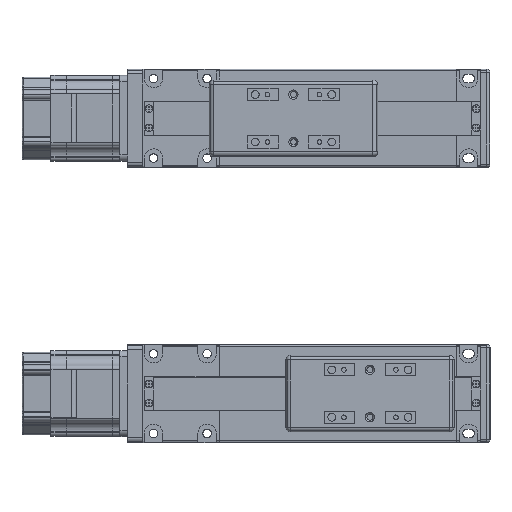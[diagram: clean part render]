
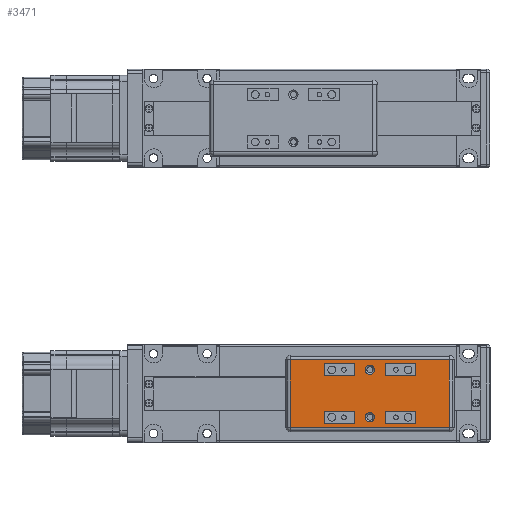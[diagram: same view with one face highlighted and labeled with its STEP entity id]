
A CAD part, top view. The second image highlights one B-rep face of the part: STEP entity #3471.
In plain terms, the highlighted planar face has unit normal (0, 0, 1).
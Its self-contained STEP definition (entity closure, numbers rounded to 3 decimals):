
#3471=ADVANCED_FACE('',(#8419,#8420,#8421,#8422,#8423,#8424,#8425),#8426,.T.);
#8419=FACE_BOUND('',#15546,.T.);
#8420=FACE_BOUND('',#15547,.T.);
#8421=FACE_OUTER_BOUND('',#15548,.T.);
#8422=FACE_BOUND('',#15549,.T.);
#8423=FACE_BOUND('',#15550,.T.);
#8424=FACE_BOUND('',#15551,.T.);
#8425=FACE_BOUND('',#15552,.T.);
#8426=PLANE('',#15553);
#15546=EDGE_LOOP('',(#25998,#25999));
#15547=EDGE_LOOP('',(#26000,#26001));
#15548=EDGE_LOOP('',(#26002,#26003,#26004,#26005));
#15549=EDGE_LOOP('',(#26006,#26007,#26008,#26009));
#15550=EDGE_LOOP('',(#26010,#26011,#26012,#26013));
#15551=EDGE_LOOP('',(#26014,#26015,#26016,#26017));
#15552=EDGE_LOOP('',(#26018,#26019,#26020,#26021));
#15553=AXIS2_PLACEMENT_3D('',#26022,#26023,#26024);
#25998=ORIENTED_EDGE('',*,*,#44726,.T.);
#25999=ORIENTED_EDGE('',*,*,#44727,.T.);
#26000=ORIENTED_EDGE('',*,*,#44728,.T.);
#26001=ORIENTED_EDGE('',*,*,#44729,.T.);
#26002=ORIENTED_EDGE('',*,*,#44730,.F.);
#26003=ORIENTED_EDGE('',*,*,#44731,.F.);
#26004=ORIENTED_EDGE('',*,*,#42636,.F.);
#26005=ORIENTED_EDGE('',*,*,#42837,.F.);
#26006=ORIENTED_EDGE('',*,*,#44732,.T.);
#26007=ORIENTED_EDGE('',*,*,#44733,.T.);
#26008=ORIENTED_EDGE('',*,*,#43658,.T.);
#26009=ORIENTED_EDGE('',*,*,#43335,.T.);
#26010=ORIENTED_EDGE('',*,*,#44734,.T.);
#26011=ORIENTED_EDGE('',*,*,#44735,.T.);
#26012=ORIENTED_EDGE('',*,*,#44736,.T.);
#26013=ORIENTED_EDGE('',*,*,#44737,.T.);
#26014=ORIENTED_EDGE('',*,*,#44738,.T.);
#26015=ORIENTED_EDGE('',*,*,#44739,.T.);
#26016=ORIENTED_EDGE('',*,*,#44740,.T.);
#26017=ORIENTED_EDGE('',*,*,#44741,.T.);
#26018=ORIENTED_EDGE('',*,*,#44742,.T.);
#26019=ORIENTED_EDGE('',*,*,#44743,.T.);
#26020=ORIENTED_EDGE('',*,*,#44744,.T.);
#26021=ORIENTED_EDGE('',*,*,#43908,.T.);
#26022=CARTESIAN_POINT('',(891.028,-71.2,14.35));
#26023=DIRECTION('',(0.0,0.0,1.0));
#26024=DIRECTION('',(0.,-1.0,0.0));
#42636=EDGE_CURVE('',#50765,#50767,#50768,.T.);
#42837=EDGE_CURVE('',#51131,#50765,#51133,.T.);
#43335=EDGE_CURVE('',#52020,#52024,#52026,.T.);
#43658=EDGE_CURVE('',#52592,#52020,#52593,.T.);
#43908=EDGE_CURVE('',#53025,#53023,#53026,.T.);
#44726=EDGE_CURVE('',#54404,#54405,#54406,.T.);
#44727=EDGE_CURVE('',#54405,#54404,#54407,.T.);
#44728=EDGE_CURVE('',#54408,#54409,#54410,.T.);
#44729=EDGE_CURVE('',#54409,#54408,#54411,.T.);
#44730=EDGE_CURVE('',#54412,#51131,#54413,.T.);
#44731=EDGE_CURVE('',#50767,#54412,#54414,.T.);
#44732=EDGE_CURVE('',#52024,#54415,#54416,.T.);
#44733=EDGE_CURVE('',#54415,#52592,#54417,.T.);
#44734=EDGE_CURVE('',#54418,#54419,#54420,.T.);
#44735=EDGE_CURVE('',#54419,#54421,#54422,.T.);
#44736=EDGE_CURVE('',#54421,#54423,#54424,.T.);
#44737=EDGE_CURVE('',#54423,#54418,#54425,.T.);
#44738=EDGE_CURVE('',#54426,#54427,#54428,.T.);
#44739=EDGE_CURVE('',#54427,#54429,#54430,.T.);
#44740=EDGE_CURVE('',#54429,#54431,#54432,.T.);
#44741=EDGE_CURVE('',#54431,#54426,#54433,.T.);
#44742=EDGE_CURVE('',#53023,#54434,#54435,.T.);
#44743=EDGE_CURVE('',#54434,#54436,#54437,.T.);
#44744=EDGE_CURVE('',#54436,#53025,#54438,.T.);
#50765=VERTEX_POINT('',#62715);
#50767=VERTEX_POINT('',#62717);
#50768=LINE('',#62718,#62719);
#51131=VERTEX_POINT('',#63216);
#51133=LINE('',#63218,#63219);
#52020=VERTEX_POINT('',#64456);
#52024=VERTEX_POINT('',#64462);
#52026=LINE('',#64465,#64466);
#52592=VERTEX_POINT('',#65269);
#52593=LINE('',#65270,#65271);
#53023=VERTEX_POINT('',#65869);
#53025=VERTEX_POINT('',#65872);
#53026=LINE('',#65873,#65874);
#54404=VERTEX_POINT('',#67793);
#54405=VERTEX_POINT('',#67794);
#54406=CIRCLE('',#67795,3.);
#54407=CIRCLE('',#67796,3.);
#54408=VERTEX_POINT('',#67797);
#54409=VERTEX_POINT('',#67798);
#54410=CIRCLE('',#67799,3.);
#54411=CIRCLE('',#67800,3.);
#54412=VERTEX_POINT('',#67801);
#54413=LINE('',#67802,#67803);
#54414=LINE('',#67804,#67805);
#54415=VERTEX_POINT('',#67806);
#54416=LINE('',#67807,#67808);
#54417=LINE('',#67809,#67810);
#54418=VERTEX_POINT('',#67811);
#54419=VERTEX_POINT('',#67812);
#54420=LINE('',#67813,#67814);
#54421=VERTEX_POINT('',#67815);
#54422=LINE('',#67816,#67817);
#54423=VERTEX_POINT('',#67818);
#54424=LINE('',#67819,#67820);
#54425=LINE('',#67821,#67822);
#54426=VERTEX_POINT('',#67823);
#54427=VERTEX_POINT('',#67824);
#54428=LINE('',#67825,#67826);
#54429=VERTEX_POINT('',#67827);
#54430=LINE('',#67828,#67829);
#54431=VERTEX_POINT('',#67830);
#54432=LINE('',#67831,#67832);
#54433=LINE('',#67833,#67834);
#54434=VERTEX_POINT('',#67835);
#54435=LINE('',#67836,#67837);
#54436=VERTEX_POINT('',#67838);
#54437=LINE('',#67839,#67840);
#54438=LINE('',#67841,#67842);
#62715=CARTESIAN_POINT('',(839.028,-49.2,14.35));
#62717=CARTESIAN_POINT('',(943.028,-49.2,14.35));
#62718=CARTESIAN_POINT('',(891.028,-49.2,14.35));
#62719=VECTOR('',#79356,1.0);
#63216=CARTESIAN_POINT('',(839.028,-93.2,14.35));
#63218=CARTESIAN_POINT('',(839.028,-71.2,14.35));
#63219=VECTOR('',#79590,1.0);
#64456=CARTESIAN_POINT('',(901.028,-59.7,14.35));
#64462=CARTESIAN_POINT('',(901.028,-51.7,14.35));
#64465=CARTESIAN_POINT('',(901.028,-71.2,14.35));
#64466=VECTOR('',#80127,1.0);
#65269=CARTESIAN_POINT('',(921.028,-59.7,14.35));
#65270=CARTESIAN_POINT('',(891.028,-59.7,14.35));
#65271=VECTOR('',#80443,1.0);
#65869=CARTESIAN_POINT('',(881.028,-82.7,14.35));
#65872=CARTESIAN_POINT('',(861.028,-82.7,14.35));
#65873=CARTESIAN_POINT('',(891.028,-82.7,14.35));
#65874=VECTOR('',#80694,1.0);
#67793=CARTESIAN_POINT('',(894.028,-86.7,14.35));
#67794=CARTESIAN_POINT('',(888.028,-86.7,14.35));
#67795=AXIS2_PLACEMENT_3D('',#81581,#81582,#81583);
#67796=AXIS2_PLACEMENT_3D('',#81584,#81585,#81586);
#67797=CARTESIAN_POINT('',(894.028,-55.7,14.35));
#67798=CARTESIAN_POINT('',(888.028,-55.7,14.35));
#67799=AXIS2_PLACEMENT_3D('',#81587,#81588,#81589);
#67800=AXIS2_PLACEMENT_3D('',#81590,#81591,#81592);
#67801=CARTESIAN_POINT('',(943.028,-93.2,14.35));
#67802=CARTESIAN_POINT('',(891.028,-93.2,14.35));
#67803=VECTOR('',#81593,1.0);
#67804=CARTESIAN_POINT('',(943.028,-71.2,14.35));
#67805=VECTOR('',#81594,1.0);
#67806=CARTESIAN_POINT('',(921.028,-51.7,14.35));
#67807=CARTESIAN_POINT('',(891.028,-51.7,14.35));
#67808=VECTOR('',#81595,1.0);
#67809=CARTESIAN_POINT('',(921.028,-71.2,14.35));
#67810=VECTOR('',#81596,1.0);
#67811=CARTESIAN_POINT('',(901.028,-90.7,14.35));
#67812=CARTESIAN_POINT('',(901.028,-82.7,14.35));
#67813=CARTESIAN_POINT('',(901.028,-71.2,14.35));
#67814=VECTOR('',#81597,1.0);
#67815=CARTESIAN_POINT('',(921.028,-82.7,14.35));
#67816=CARTESIAN_POINT('',(891.028,-82.7,14.35));
#67817=VECTOR('',#81598,1.0);
#67818=CARTESIAN_POINT('',(921.028,-90.7,14.35));
#67819=CARTESIAN_POINT('',(921.028,-71.2,14.35));
#67820=VECTOR('',#81599,1.0);
#67821=CARTESIAN_POINT('',(891.028,-90.7,14.35));
#67822=VECTOR('',#81600,1.0);
#67823=CARTESIAN_POINT('',(861.028,-59.7,14.35));
#67824=CARTESIAN_POINT('',(861.028,-51.7,14.35));
#67825=CARTESIAN_POINT('',(861.028,-71.2,14.35));
#67826=VECTOR('',#81601,1.0);
#67827=CARTESIAN_POINT('',(881.028,-51.7,14.35));
#67828=CARTESIAN_POINT('',(891.028,-51.7,14.35));
#67829=VECTOR('',#81602,1.0);
#67830=CARTESIAN_POINT('',(881.028,-59.7,14.35));
#67831=CARTESIAN_POINT('',(881.028,-71.2,14.35));
#67832=VECTOR('',#81603,1.0);
#67833=CARTESIAN_POINT('',(891.028,-59.7,14.35));
#67834=VECTOR('',#81604,1.0);
#67835=CARTESIAN_POINT('',(881.028,-90.7,14.35));
#67836=CARTESIAN_POINT('',(881.028,-71.2,14.35));
#67837=VECTOR('',#81605,1.0);
#67838=CARTESIAN_POINT('',(861.028,-90.7,14.35));
#67839=CARTESIAN_POINT('',(891.028,-90.7,14.35));
#67840=VECTOR('',#81606,1.0);
#67841=CARTESIAN_POINT('',(861.028,-71.2,14.35));
#67842=VECTOR('',#81607,1.0);
#79356=DIRECTION('',(1.0,0.,0.0));
#79590=DIRECTION('',(0.,1.0,0.0));
#80127=DIRECTION('',(0.,1.0,0.0));
#80443=DIRECTION('',(-1.0,0.,0.0));
#80694=DIRECTION('',(1.0,0.,0.0));
#81581=CARTESIAN_POINT('',(891.028,-86.7,14.35));
#81582=DIRECTION('',(0.0,0.0,-1.0));
#81583=DIRECTION('',(-1.0,0.,0.0));
#81584=CARTESIAN_POINT('',(891.028,-86.7,14.35));
#81585=DIRECTION('',(0.0,0.0,-1.0));
#81586=DIRECTION('',(-1.0,0.,0.0));
#81587=CARTESIAN_POINT('',(891.028,-55.7,14.35));
#81588=DIRECTION('',(0.0,0.0,-1.0));
#81589=DIRECTION('',(-1.0,0.,0.0));
#81590=CARTESIAN_POINT('',(891.028,-55.7,14.35));
#81591=DIRECTION('',(0.0,0.0,-1.0));
#81592=DIRECTION('',(-1.0,0.,0.0));
#81593=DIRECTION('',(-1.0,0.,0.0));
#81594=DIRECTION('',(0.,-1.0,0.0));
#81595=DIRECTION('',(1.0,0.,0.0));
#81596=DIRECTION('',(0.,-1.0,0.0));
#81597=DIRECTION('',(0.,1.0,0.0));
#81598=DIRECTION('',(1.0,0.,0.0));
#81599=DIRECTION('',(0.,-1.0,0.0));
#81600=DIRECTION('',(-1.0,0.,0.0));
#81601=DIRECTION('',(0.,1.0,0.0));
#81602=DIRECTION('',(1.0,0.,0.0));
#81603=DIRECTION('',(0.,-1.0,0.0));
#81604=DIRECTION('',(-1.0,0.,0.0));
#81605=DIRECTION('',(0.,-1.0,0.0));
#81606=DIRECTION('',(-1.0,0.,0.0));
#81607=DIRECTION('',(0.,1.0,0.0));
